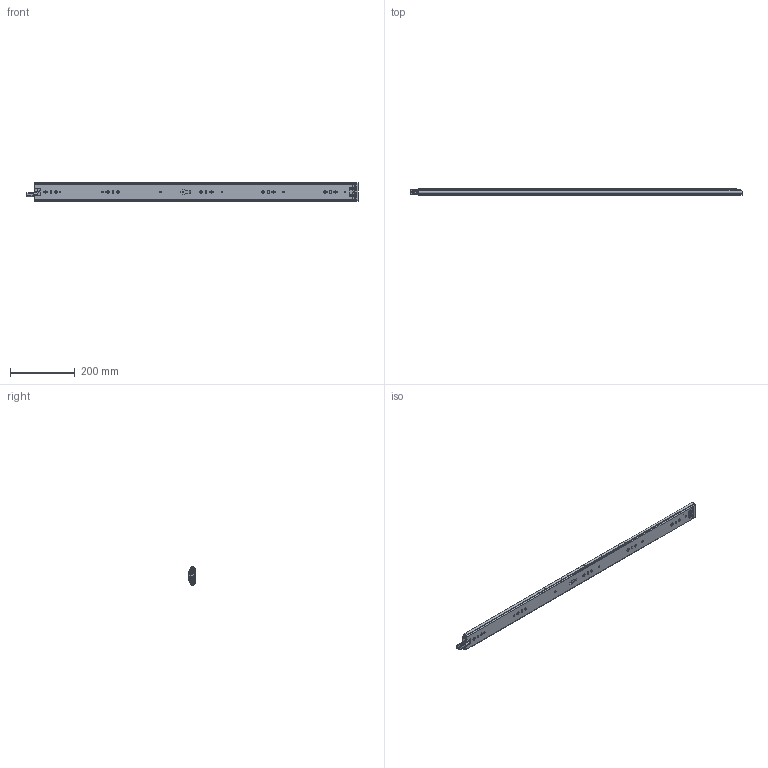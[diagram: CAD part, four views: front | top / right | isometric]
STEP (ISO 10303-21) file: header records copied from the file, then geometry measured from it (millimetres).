
FILE_DESCRIPTION((''),'2;1');
FILE_NAME('KP-57-01ZUZHUANGTU-40_ASM','2022-08-17T',('jishu015'),(''),'PRO/ENGINEER BY PARAMETRIC TECHNOLOGY CORPORATION, 2010280','PRO/ENGINEER BY PARAMETRIC TECHNOLOGY CORPORATION, 2010280','');
FILE_SCHEMA(('CONFIG_CONTROL_DESIGN'));
Products named in the file (22): KP-57-01WEIKE-18______; 1057WEIJIAO______; WAIKE_____ASM; KP-57-01ZHONGGUI-18______; ZHONGGUIPEIJIAN-11____; ZHONGGUISUOKOU-11____; KP-57-01ZHONGGUI-18_______ASM; 1057XIAOZHUJIA______; 1057-5-6GANZHU______; 1057XIAOZHUJIA-14GE_______ASM; KP-57-01NEIGUI-18______; PJ-57-08____; DIAOPIAN-11____; 50XINSUOKOU-1____; TANHUANG____; 1053-3SBANJI122__; JIAO11__; KP-57-01NEIGUI-18_______ASM; 1053ZHUTIAO-175__________; 53-5-6GANZHU__________; 1053ZHUTIAO-175MM_____ASM; KP-57-01ZUZHUANGTU-40_ASM
Assembly tree (110 placements, depth 3):
  KP-57-01ZUZHUANGTU-40_ASM
    WAIKE_____ASM
      KP-57-01WEIKE-18______
      1057WEIJIAO______
    KP-57-01ZHONGGUI-18_______ASM
      KP-57-01ZHONGGUI-18______
      ZHONGGUIPEIJIAN-11____
      ZHONGGUISUOKOU-11____
    1057XIAOZHUJIA-14GE_______ASM
      1057XIAOZHUJIA______
      1057-5-6GANZHU______  x72
    KP-57-01NEIGUI-18_______ASM
      KP-57-01NEIGUI-18______
      PJ-57-08____
      DIAOPIAN-11____
      50XINSUOKOU-1____
      TANHUANG____
      1053-3SBANJI122__
      JIAO11__
    1053ZHUTIAO-175MM_____ASM  x2
      1053ZHUTIAO-175__________
      53-5-6GANZHU__________
Bounding box: 1025.42 x 19 x 57.67 mm (x, y, z)
Volume: 439571.3 mm3; surface area: 480048.1 mm2
Topology: 126 solids, 126 shells, 2978 faces, 8612 edges, 5359 vertices
Faces by surface type: cylinder 1306, plane 1179, sphere 227, bspline 134, cone 84, torus 25, extrusion 23
Entity records: 95347 total; most frequent: CARTESIAN_POINT 23431, ORIENTED_EDGE 15220, DIRECTION 14837, EDGE_CURVE 7610, AXIS2_PLACEMENT_3D 5137, VERTEX_POINT 4915, VECTOR 4563, LINE 4540
